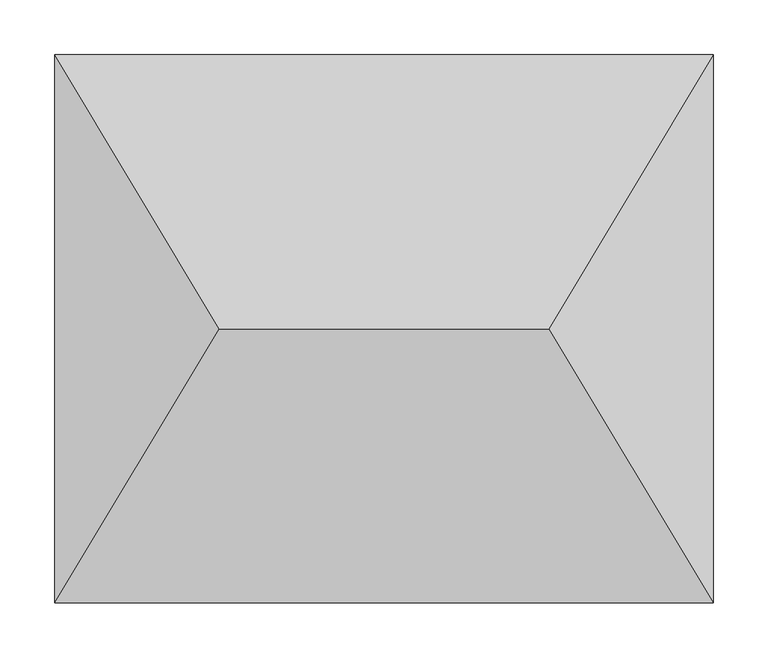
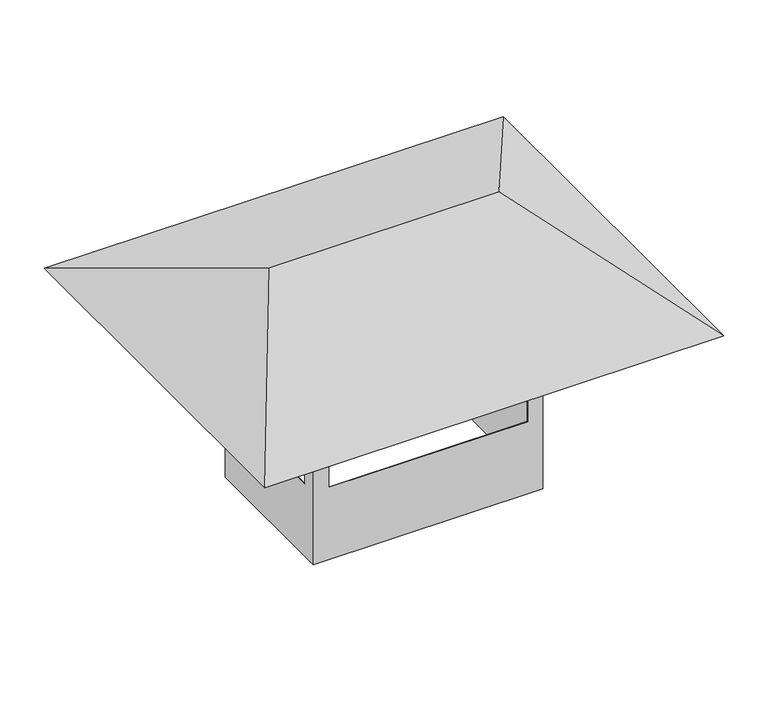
"""IFC4 building model written with IfcOpenShell, lengths in millimetres: air terminal geometry, BL_ЗонтПрямоугольный_Воздухозабор : BL_ЗонтПрямоугольный_Воздухозабор."""

from ifc_helpers import new_model, si_unit, origin, place, context, project, spatial, faceted_brep, source, transform, mapped, element, save


def air_terminal_59899d2f(model_context):
    return source(origin(), model_context, "Body", "Brep", [
        faceted_brep([(130.0, 100.0, 100.0), (-130.0, 100.0, 100.0), (-130.0, 99.0, 100.0), (130.0, 99.0, 100.0), (-150.0, 80.0, 100.0), (-150.0, -80.0, 100.0), (-149.0, -80.0, 100.0), (-149.0, 80.0, 100.0), (-130.0, -100.0, 100.0), (130.0, -100.0, 100.0), (130.0, -99.0, 100.0), (-130.0, -99.0, 100.0), (150.0, -80.0, 100.0), (150.0, 80.0, 100.0), (149.0, 80.0, 100.0), (149.0, -80.0, 100.0), (150.0, 100.0, 0.0), (150.0, -100.0, 0.0), (-150.0, -100.0, 0.0), (-150.0, 100.0, 0.0), (149.0, 99.0, 0.0), (-149.0, 99.0, 0.0), (-149.0, -99.0, 0.0), (149.0, -99.0, 0.0), (-150.0, 100.0, 250.0), (-130.0, 100.0, 250.0), (130.0, 100.0, 250.0), (150.0, 100.0, 250.0), (-150.0, -100.0, 250.0), (-150.0, -80.0, 250.0), (-150.0, 80.0, 250.0), (150.0, -100.0, 250.0), (130.0, -100.0, 250.0), (-130.0, -100.0, 250.0), (150.0, 80.0, 250.0), (150.0, -80.0, 250.0), (149.0, -99.0, 250.0), (149.0, -80.0, 250.0), (149.0, 80.0, 250.0), (149.0, 99.0, 250.0), (-149.0, -99.0, 250.0), (-130.0, -99.0, 250.0), (130.0, -99.0, 250.0), (-149.0, 99.0, 250.0), (-149.0, 80.0, 250.0), (-149.0, -80.0, 250.0), (130.0, 99.0, 250.0), (-130.0, 99.0, 250.0)], [[[0, 1, 2, 3]], [[4, 5, 6, 7]], [[8, 9, 10, 11]], [[12, 13, 14, 15]], [[16, 17, 18, 19], [20, 21, 22, 23]], [[16, 19, 24, 25, 1, 0, 26, 27]], [[24, 19, 18, 28, 29, 5, 4, 30]], [[28, 18, 17, 31, 32, 9, 8, 33]], [[31, 17, 16, 27, 34, 13, 12, 35]], [[20, 23, 36, 37, 15, 14, 38, 39]], [[36, 23, 22, 40, 41, 11, 10, 42]], [[40, 22, 21, 43, 44, 7, 6, 45]], [[43, 21, 20, 39, 46, 3, 2, 47]], [[25, 24, 30, 44, 43, 47]], [[28, 33, 41, 40, 45, 29]], [[31, 35, 37, 36, 42, 32]], [[46, 39, 38, 34, 27, 26]], [[44, 30, 4, 7]], [[25, 47, 2, 1]], [[34, 38, 14, 13]], [[46, 26, 0, 3]], [[41, 33, 8, 11]], [[29, 45, 6, 5]], [[37, 35, 12, 15]], [[32, 42, 10, 9]]]),
        faceted_brep([(300.0, -250.0, 250.0), (-300.0, -250.0, 250.0), (-300.0, 250.0, 250.0), (300.0, 250.0, 250.0), (-150.0, 0.0, 350.0), (150.0, 0.0, 350.0)], [[[0, 1, 2, 3]], [[3, 2, 4, 5]], [[1, 0, 5, 4]], [[2, 1, 4]], [[0, 3, 5]]]),
    ])


if __name__ == "__main__":
    model = new_model("IFC4")
    model_context = context("Model", 3, world=origin())
    ifc_project = project(units=[si_unit("LENGTHUNIT", "METRE", prefix="MILLI")], contexts=[model_context])
    site = spatial("IfcSite", under=ifc_project)
    building = spatial("IfcBuilding", under=site)
    placement = place(None, origin())
    air_terminal_shape = air_terminal_59899d2f(model_context)
    element("IfcAirTerminal", 1, ObjectType="BL_ЗонтПрямоугольный_Воздухозабор : BL_ЗонтПрямоугольный_Воздухозабор", at=placement, inside=building, context=model_context, shape_type="MappedRepresentation", body=[
        mapped(air_terminal_shape, transform((0.0, 0.0, 0.0), x_axis=(1.0, 0.0, 0.0), y_axis=(0.0, 1.0, 0.0), z_axis=(0.0, 0.0, 1.0))),
    ])
    save(model, "model.ifc")
